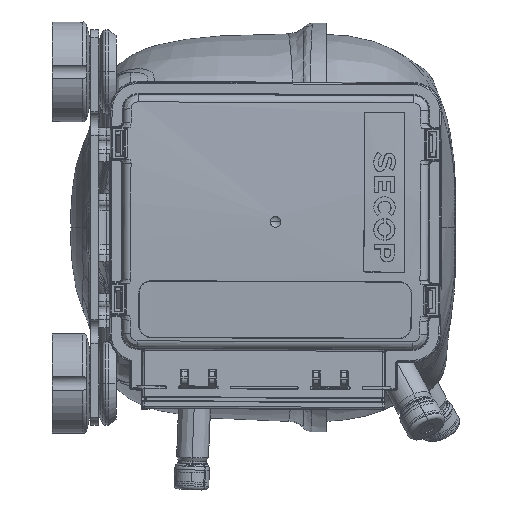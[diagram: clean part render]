
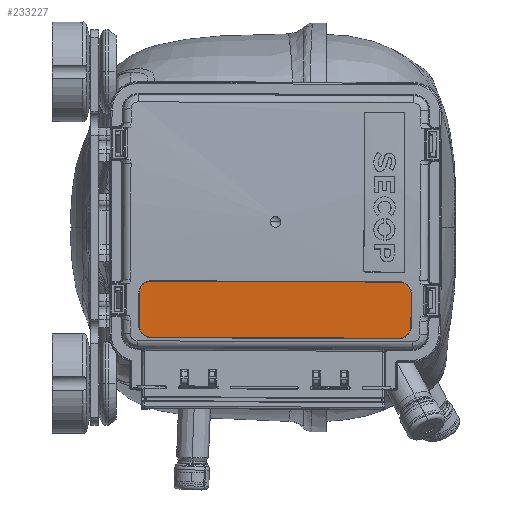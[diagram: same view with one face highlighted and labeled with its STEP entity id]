
A CAD part, left-side view. The second image highlights one B-rep face of the part: STEP entity #233227.
In plain terms, the highlighted cylindrical face has radius 399.8 mm (diameter 799.6 mm), a partial arc.
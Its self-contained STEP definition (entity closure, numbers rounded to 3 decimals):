
#186986=CARTESIAN_POINT('',(26.015,5.235,
-34.011));
#186987=CARTESIAN_POINT('',(23.332,5.41,
-34.02));
#186988=CARTESIAN_POINT('',(20.648,5.558,
-34.028));
#186989=CARTESIAN_POINT('',(17.962,5.678,
-34.034));
#187021=CARTESIAN_POINT('',(29.,5.029,
-31.006));
#187056=CARTESIAN_POINT('',(29.,5.029,
31.006));
#187098=CARTESIAN_POINT('',(14.959,5.802,
31.046));
#187133=CARTESIAN_POINT('',(14.959,5.802,
-31.046));
#187140=CARTESIAN_POINT('',(14.959,5.802,
-31.046));
#187141=CARTESIAN_POINT('',(14.96,5.802,
-31.312));
#187142=CARTESIAN_POINT('',(15.027,5.8,
-31.823));
#187143=CARTESIAN_POINT('',(15.331,5.788,
-32.56));
#187144=CARTESIAN_POINT('',(15.809,5.77,
-33.18));
#187145=CARTESIAN_POINT('',(16.435,5.744,
-33.662));
#187146=CARTESIAN_POINT('',(17.169,5.713,
-33.965));
#187147=CARTESIAN_POINT('',(17.69,5.691,
-34.035));
#187148=CARTESIAN_POINT('',(17.962,5.678,
-34.034));
#187150=CARTESIAN_POINT('',(26.015,5.235,
-34.011));
#187151=CARTESIAN_POINT('',(26.28,5.217,
-34.01));
#187152=CARTESIAN_POINT('',(26.79,5.184,
-33.941));
#187153=CARTESIAN_POINT('',(27.526,5.134,
-33.634));
#187154=CARTESIAN_POINT('',(28.146,5.09,
-33.154));
#187155=CARTESIAN_POINT('',(28.626,5.056,
-32.529));
#187156=CARTESIAN_POINT('',(28.931,5.034,
-31.789));
#187157=CARTESIAN_POINT('',(29.,5.029,
-31.274));
#187158=CARTESIAN_POINT('',(29.,5.029,
-31.006));
#187160=DIRECTION('',(0.,0.,1.));
#187161=VECTOR('',#187160,62.011);
#187162=CARTESIAN_POINT('',(29.,5.029,
-31.006));
#187163=LINE('',#187162,#187161);
#187164=CARTESIAN_POINT('',(29.,5.029,
31.006));
#187165=CARTESIAN_POINT('',(29.,5.029,
31.272));
#187166=CARTESIAN_POINT('',(28.932,5.034,
31.785));
#187167=CARTESIAN_POINT('',(28.629,5.056,
32.524));
#187168=CARTESIAN_POINT('',(28.151,5.09,
33.149));
#187169=CARTESIAN_POINT('',(27.531,5.133,
33.631));
#187170=CARTESIAN_POINT('',(26.794,5.183,
33.94));
#187171=CARTESIAN_POINT('',(26.281,5.217,
34.01));
#187172=CARTESIAN_POINT('',(26.015,5.235,
34.011));
#187174=CARTESIAN_POINT('',(26.015,5.235,
34.011));
#187175=CARTESIAN_POINT('',(23.332,5.41,
34.02));
#187176=CARTESIAN_POINT('',(20.648,5.558,
34.028));
#187177=CARTESIAN_POINT('',(17.962,5.678,
34.034));
#187179=CARTESIAN_POINT('',(17.962,5.678,
34.034));
#187180=CARTESIAN_POINT('',(17.692,5.69,
34.035));
#187181=CARTESIAN_POINT('',(17.174,5.713,
33.966));
#187182=CARTESIAN_POINT('',(16.441,5.744,
33.666));
#187183=CARTESIAN_POINT('',(15.813,5.769,
33.185));
#187184=CARTESIAN_POINT('',(15.334,5.788,
32.565));
#187185=CARTESIAN_POINT('',(15.028,5.8,
31.827));
#187186=CARTESIAN_POINT('',(14.96,5.802,
31.313));
#187187=CARTESIAN_POINT('',(14.959,5.802,
31.046));
#187189=DIRECTION('',(0.,0.,-1.));
#187190=VECTOR('',#187189,62.093);
#187191=CARTESIAN_POINT('',(14.959,5.802,
31.046));
#187192=LINE('',#187191,#187190);
#194426=CARTESIAN_POINT('',(26.015,5.235,
-34.011));
#194427=VERTEX_POINT('',#194426);
#194428=VERTEX_POINT('',#186989);
#194429=VERTEX_POINT('',#187021);
#194430=VERTEX_POINT('',#187056);
#194431=CARTESIAN_POINT('',(26.015,5.235,
34.011));
#194432=VERTEX_POINT('',#194431);
#194433=CARTESIAN_POINT('',(17.962,5.678,
34.034));
#194434=VERTEX_POINT('',#194433);
#194435=VERTEX_POINT('',#187098);
#194436=VERTEX_POINT('',#187133);
#233212=CARTESIAN_POINT('',(0.,-393.718,-34.));
#233213=DIRECTION('',(0.,0.,1.));
#233214=DIRECTION('',(1.,0.,0.));
#233215=AXIS2_PLACEMENT_3D('',#233212,#233213,#233214);
#233216=CYLINDRICAL_SURFACE('',#233215,399.8);
#233217=ORIENTED_EDGE('',*,*,#233206,.T.);
#233218=ORIENTED_EDGE('',*,*,#233108,.F.);
#233219=ORIENTED_EDGE('',*,*,#233123,.T.);
#233220=ORIENTED_EDGE('',*,*,#233137,.T.);
#233221=ORIENTED_EDGE('',*,*,#233151,.T.);
#233222=ORIENTED_EDGE('',*,*,#233165,.T.);
#233223=ORIENTED_EDGE('',*,*,#233179,.T.);
#233224=ORIENTED_EDGE('',*,*,#233193,.T.);
#233225=EDGE_LOOP('',(#233217,#233218,#233219,#233220,#233221,#233222,#233223,
#233224));
#233226=FACE_OUTER_BOUND('',#233225,.F.);
#233227=ADVANCED_FACE('',(#233226),#233216,.T.);
#186990=B_SPLINE_CURVE_WITH_KNOTS('',3,(#186986,#186987,#186988,#186989),
.UNSPECIFIED.,.F.,.F.,(4,4),(0.,1.),.UNSPECIFIED.);
#187149=B_SPLINE_CURVE_WITH_KNOTS('',3,(#187140,#187141,#187142,#187143,#187144,
#187145,#187146,#187147,#187148),.UNSPECIFIED.,.F.,.F.,(4,1,1,1,1,1,4),(0.,
0.167,0.333,0.5,0.667,0.833,
1.),.UNSPECIFIED.);
#187159=B_SPLINE_CURVE_WITH_KNOTS('',3,(#187150,#187151,#187152,#187153,#187154,
#187155,#187156,#187157,#187158),.UNSPECIFIED.,.F.,.F.,(4,1,1,1,1,1,4),(0.,
0.167,0.333,0.5,0.667,0.833,
1.),.UNSPECIFIED.);
#187173=B_SPLINE_CURVE_WITH_KNOTS('',3,(#187164,#187165,#187166,#187167,#187168,
#187169,#187170,#187171,#187172),.UNSPECIFIED.,.F.,.F.,(4,1,1,1,1,1,4),(0.,
0.167,0.333,0.5,0.667,0.833,
1.),.UNSPECIFIED.);
#187178=B_SPLINE_CURVE_WITH_KNOTS('',3,(#187174,#187175,#187176,#187177),
.UNSPECIFIED.,.F.,.F.,(4,4),(0.,1.),.UNSPECIFIED.);
#187188=B_SPLINE_CURVE_WITH_KNOTS('',3,(#187179,#187180,#187181,#187182,#187183,
#187184,#187185,#187186,#187187),.UNSPECIFIED.,.F.,.F.,(4,1,1,1,1,1,4),(0.,
0.167,0.333,0.5,0.667,0.833,
1.),.UNSPECIFIED.);
#233108=EDGE_CURVE('',#194427,#194428,#186990,.T.);
#233123=EDGE_CURVE('',#194427,#194429,#187159,.T.);
#233137=EDGE_CURVE('',#194429,#194430,#187163,.T.);
#233151=EDGE_CURVE('',#194430,#194432,#187173,.T.);
#233165=EDGE_CURVE('',#194432,#194434,#187178,.T.);
#233179=EDGE_CURVE('',#194434,#194435,#187188,.T.);
#233193=EDGE_CURVE('',#194435,#194436,#187192,.T.);
#233206=EDGE_CURVE('',#194436,#194428,#187149,.T.);
